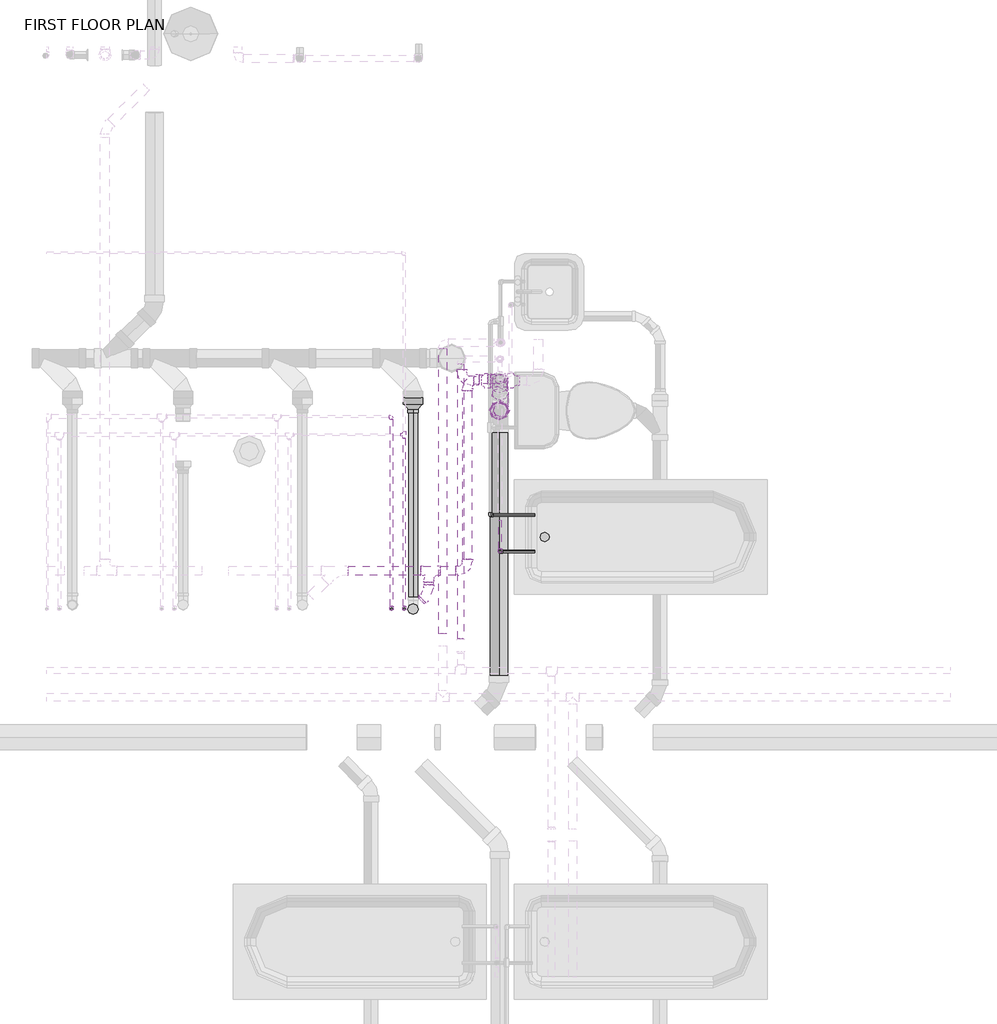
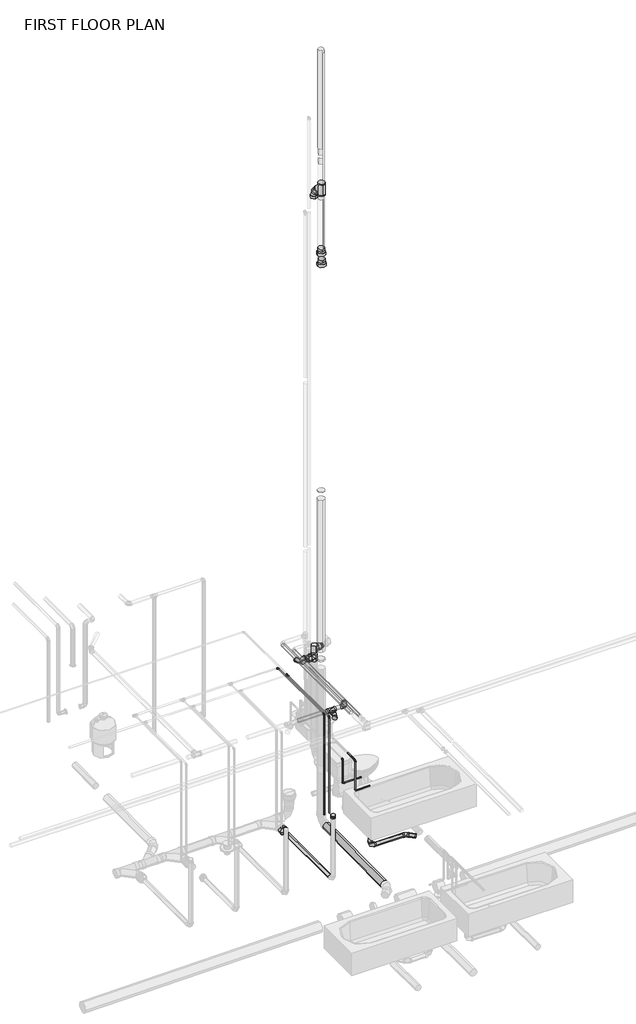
# One storey, part 25 of 29: 31 pipe segments, 26 pipe fittings.
"""IFC4 building model written with IfcOpenShell, lengths in millimetres."""

from ifc_helpers import new_model, si_unit, point, frame, frame_2d, origin, place, context, project, spatial, circle_curve, trimmed, segment, composite_curve, outline, extrude, transform, mapped, element, save
from ifc_brep_helpers import plane_surface, cylinder_surface, advanced_brep
from components import bend_pvc_sch_40_dwv_standard_e287c2f6, bend_pvc_sch_40_dwv_standard_22595671, bend_pvc_sch_40_dwv_standard_1eaeee76, bend_pvc_sch_40_dwv_standard_1ab6f397, bend_pvc_sch_40_dwv_standard_f476c566, coupling_pvc_sch_40_dwv_standard_35c33311, ges_wye_45_deg_threaded_mi_class_150_cast_iron_sanitary_f6564ef3, pipe_elbow_copper_k_aad62f2d, pipe_tee_copper_k_1a6ca384, pipe_tee_copper_k_66279296, pipe_tee_standard_eb115f45, reducer_pvc_sch_40_dwv_standard_f8e5081b, reducer_pvc_sch_40_dwv_standard_c37f7539, reducer_pvc_sch_40_dwv_standard_58c00515, tee_sanitary_pvc_sch_40_dwv_standard_7b7ecc20

model = new_model("IFC4")

# Units and contexts
model_context = context("Model", 3, world=origin())
ifc_project = project(units=[si_unit("LENGTHUNIT", "METRE", prefix="MILLI")], contexts=[model_context])

# Site, building, storey
site = spatial("IfcSite", under=ifc_project)
building = spatial("IfcBuilding", under=site)
storey = spatial("IfcBuildingStorey", under=building, Name="FIRST FLOOR PLAN", Elevation=0.0)

# Pipe fittings
placement = place(None, origin())
bend_pvc_sch_40_dwv_standard_shape = bend_pvc_sch_40_dwv_standard_e287c2f6(model_context)
element("IfcPipeFitting", 1, ObjectType="Bend - PVC - Sch 40 - DWV : Standard", at=placement, inside=storey, context=model_context, shape_type="MappedRepresentation", body=[
    mapped(bend_pvc_sch_40_dwv_standard_shape, transform((17237.6815209, 6841.398993, -384.8919141), x_axis=(0.0, 0.0, -1.0), y_axis=(1.0, 0.0, 0.0), z_axis=(0.0, -1.0, 0.0))),
])
bend_pvc_sch_40_dwv_standard_2_shape = bend_pvc_sch_40_dwv_standard_22595671(model_context)
element("IfcPipeFitting", 2, ObjectType="Bend - PVC - Sch 40 - DWV : Standard", at=placement, inside=storey, context=model_context, shape_type="MappedRepresentation", body=[
    mapped(bend_pvc_sch_40_dwv_standard_2_shape, transform((17804.0399181, 6841.398993, -390.7914808), x_axis=(-0.7066279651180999, 0.7075155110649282, 0.009935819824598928), y_axis=(-0.7075086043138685, -0.7066884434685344, 0.004797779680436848), z_axis=(0.010416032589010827, -0.003639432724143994, 0.9999391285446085))),
])
bend_pvc_sch_40_dwv_standard_3_shape = bend_pvc_sch_40_dwv_standard_1eaeee76(model_context)
element("IfcPipeFitting", 3, ObjectType="Bend - PVC - Sch 40 - DWV : Standard", at=placement, inside=storey, context=model_context, shape_type="MappedRepresentation", body=[
    mapped(bend_pvc_sch_40_dwv_standard_3_shape, transform((16725.0010296, 6617.4137881, 2311.4), x_axis=(1.0, 0.0, 0.0), y_axis=(0.0, 1.0, 0.0), z_axis=(0.0, 0.0, 1.0))),
])
element("IfcPipeFitting", 4, ObjectType="Bend - PVC - Sch 40 - DWV : Standard", at=placement, inside=storey, context=model_context, shape_type="MappedRepresentation", body=[
    mapped(bend_pvc_sch_40_dwv_standard_3_shape, transform((16725.0010296, 7887.4137881, 2311.4), x_axis=(-1.0, 0.0, 0.0), y_axis=(0.0, -1.0, 0.0), z_axis=(0.0, 0.0, 1.0))),
])
element("IfcPipeFitting", 5, ObjectType="Bend - PVC - Sch 40 - DWV : Standard", at=placement, inside=storey, context=model_context, shape_type="MappedRepresentation", body=[
    mapped(bend_pvc_sch_40_dwv_standard_3_shape, transform((16939.1076863, 7887.2912485, 2311.4), x_axis=(1.0, 0.0, 0.0), y_axis=(0.0, 0.0, 1.0), z_axis=(0.0, -1.0, 0.0))),
])
element("IfcPipeFitting", 6, ObjectType="Bend - PVC - Sch 40 - DWV : Standard", at=placement, inside=storey, context=model_context, shape_type="MappedRepresentation", body=[
    mapped(bend_pvc_sch_40_dwv_standard_3_shape, transform((16688.3084875, 7876.8887644, 2285.9990858), x_axis=(0.0, -0.9999999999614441, 8.781345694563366e-06), y_axis=(1.0000000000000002, 0.0, 0.0), z_axis=(0.0, 8.781345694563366e-06, 0.9999999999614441))),
])
bend_pvc_sch_40_dwv_standard_4_shape = bend_pvc_sch_40_dwv_standard_1ab6f397(model_context)
element("IfcPipeFitting", 7, ObjectType="Bend - PVC - Sch 40 - DWV : Standard", at=placement, inside=storey, context=model_context, shape_type="MappedRepresentation", body=[
    mapped(bend_pvc_sch_40_dwv_standard_4_shape, transform((16468.9786905, 6466.9781439, 2311.4000006), x_axis=(0.7070991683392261, 0.7071143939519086, 0.0), y_axis=(-0.7071143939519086, 0.7070991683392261, 0.0), z_axis=(0.0, 0.0, 1.0))),
])
bend_pvc_sch_40_dwv_standard_5_shape = bend_pvc_sch_40_dwv_standard_f476c566(model_context)
element("IfcPipeFitting", 8, ObjectType="Bend - PVC - Sch 40 - DWV : Standard", at=placement, inside=storey, context=model_context, shape_type="MappedRepresentation", body=[
    mapped(bend_pvc_sch_40_dwv_standard_5_shape, transform((16939.1076863, 7887.2912485, 10143.4877264), x_axis=(0.0, 0.0, 1.0), y_axis=(0.043709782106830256, -0.9990442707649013, 0.0), z_axis=(0.9990442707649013, 0.043709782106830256, 0.0))),
])
coupling_pvc_sch_40_dwv_standard_shape = coupling_pvc_sch_40_dwv_standard_35c33311(model_context)
element("IfcPipeFitting", 9, ObjectType="Coupling - PVC - Sch 40 - DWV : Standard", at=placement, inside=storey, context=model_context, shape_type="MappedRepresentation", body=[
    mapped(coupling_pvc_sch_40_dwv_standard_shape, transform((16365.3897735, 6363.3917509, 709.0879534), x_axis=(-1.1657634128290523e-06, -4.63813787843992e-05, 0.9999999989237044), y_axis=(0.9999999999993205, -2.582600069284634e-09, 1.1657632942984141e-06), z_axis=(2.528530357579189e-09, 0.9999999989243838, 4.638137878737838e-05))),
])
ges_wye_45_deg_threaded_mi_class_150_cast_iron_sanitary_shape = ges_wye_45_deg_threaded_mi_class_150_cast_iron_sanitary_f6564ef3(model_context)
element("IfcPipeFitting", 10, ObjectType="GES Wye 45 Deg - Threaded - MI - Class 150 : Cast Iron- Sanitary", at=placement, inside=storey, context=model_context, shape_type="MappedRepresentation", body=[
    mapped(ges_wye_45_deg_threaded_mi_class_150_cast_iron_sanitary_shape, transform((16943.5229844, 7681.3681734, 10388.8773643), x_axis=(0.0, 0.0, 1.0), y_axis=(0.0, -1.0, 0.0), z_axis=(1.0, 0.0, 0.0))),
])
pipe_elbow_copper_k_shape = pipe_elbow_copper_k_aad62f2d(model_context)
element("IfcPipeFitting", 11, ObjectType="Pipe Elbow : Copper- K", at=placement, inside=storey, context=model_context, shape_type="MappedRepresentation", body=[
    mapped(pipe_elbow_copper_k_shape, transform((16223.3084875, 6363.4137881, 2490.6882812), x_axis=(0.0, -1.0, 0.0), y_axis=(0.0, 0.0, -1.0), z_axis=(1.0, 0.0, 0.0))),
])
element("IfcPipeFitting", 12, ObjectType="Pipe Elbow : Copper- K", at=placement, inside=storey, context=model_context, shape_type="MappedRepresentation", body=[
    mapped(pipe_elbow_copper_k_shape, transform((16306.9084875, 6363.4137881, 2413.0), x_axis=(0.0, -1.0, 0.0), y_axis=(0.0, 0.0, -1.0), z_axis=(1.0, 0.0, 0.0))),
])
element("IfcPipeFitting", 13, ObjectType="Pipe Elbow : Copper- K", at=placement, inside=storey, context=model_context, shape_type="MappedRepresentation", body=[
    mapped(pipe_elbow_copper_k_shape, transform((16223.3084875, 7639.882496, 2490.6882812), x_axis=(0.0, 1.0, 0.0), y_axis=(-1.0, 0.0, 0.0), z_axis=(0.0, 0.0, 1.0))),
])
element("IfcPipeFitting", 14, ObjectType="Pipe Elbow : Copper- K", at=placement, inside=storey, context=model_context, shape_type="MappedRepresentation", body=[
    mapped(pipe_elbow_copper_k_shape, transform((16942.7084875, 6746.0012881, 1219.2), x_axis=(0.0, -1.0, 0.0), y_axis=(0.0, 0.0, -1.0), z_axis=(1.0, 0.0, 0.0))),
])
element("IfcPipeFitting", 15, ObjectType="Pipe Elbow : Copper- K", at=placement, inside=storey, context=model_context, shape_type="MappedRepresentation", body=[
    mapped(pipe_elbow_copper_k_shape, transform((16942.7084875, 6746.0012881, 711.2), x_axis=(0.0, 0.0, -1.0), y_axis=(1.0, 0.0, 0.0), z_axis=(0.0, -1.0, 0.0))),
])
element("IfcPipeFitting", 16, ObjectType="Pipe Elbow : Copper- K", at=placement, inside=storey, context=model_context, shape_type="MappedRepresentation", body=[
    mapped(pipe_elbow_copper_k_shape, transform((16879.2084875, 6986.022219, 1117.6), x_axis=(0.0, -1.0, 0.0), y_axis=(0.0, 0.0, -1.0), z_axis=(1.0, 0.0, 0.0))),
])
element("IfcPipeFitting", 17, ObjectType="Pipe Elbow : Copper- K", at=placement, inside=storey, context=model_context, shape_type="MappedRepresentation", body=[
    mapped(pipe_elbow_copper_k_shape, transform((16879.2084875, 6986.022219, 711.2), x_axis=(0.0, 0.0, -1.0), y_axis=(1.0, 0.0, 0.0), z_axis=(0.0, -1.0, 0.0))),
])
pipe_tee_copper_k_shape = pipe_tee_copper_k_1a6ca384(model_context)
element("IfcPipeFitting", 18, ObjectType="Pipe Tee : Copper- K", at=placement, inside=storey, context=model_context, shape_type="MappedRepresentation", body=[
    mapped(pipe_tee_copper_k_shape, transform((16306.9084875, 7519.1499538, 2413.0), x_axis=(0.0, 1.0, 0.0), y_axis=(1.0, 0.0, 0.0), z_axis=(0.0, 0.0, -1.0))),
])
pipe_tee_copper_k_2_shape = pipe_tee_copper_k_66279296(model_context)
element("IfcPipeFitting", 19, ObjectType="Pipe Tee : Standard", at=placement, inside=storey, context=model_context, shape_type="MappedRepresentation", body=[
    mapped(pipe_tee_copper_k_2_shape, transform((16935.7559337, 7876.8887644, 2285.9990858), x_axis=(0.0, 0.0, 1.0), y_axis=(1.0, 0.0, 0.0), z_axis=(0.0, 1.0, 0.0))),
])
pipe_tee_standard_shape = pipe_tee_standard_eb115f45(model_context)
element("IfcPipeFitting", 20, ObjectType="Pipe Tee : Standard", at=placement, inside=storey, context=model_context, shape_type="MappedRepresentation", body=[
    mapped(pipe_tee_standard_shape, transform((16935.7559337, 7876.8887644, 2438.7627068), x_axis=(0.0, 0.0, 1.0), y_axis=(-1.0, 0.0, 0.0), z_axis=(0.0, -1.0, 0.0))),
])
reducer_pvc_sch_40_dwv_standard_shape = reducer_pvc_sch_40_dwv_standard_f8e5081b(model_context)
element("IfcPipeFitting", 21, ObjectType="Reducer - PVC - Sch 40 - DWV : Standard", at=placement, inside=storey, context=model_context, shape_type="MappedRepresentation", body=[
    mapped(reducer_pvc_sch_40_dwv_standard_shape, transform((16880.1934337, 7876.8887644, 2285.9990858), x_axis=(-1.0, 0.0, 0.0), y_axis=(0.0, -1.0, 0.0), z_axis=(0.0, 0.0, 1.0))),
])
element("IfcPipeFitting", 22, ObjectType="Reducer - PVC - Sch 40 - DWV : Standard", at=placement, inside=storey, context=model_context, shape_type="MappedRepresentation", body=[
    mapped(reducer_pvc_sch_40_dwv_standard_shape, transform((16991.3183768, 7876.8887644, 2438.6831648), x_axis=(0.9999989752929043, 0.0, -0.001431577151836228), y_axis=(0.0, 1.0000000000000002, 0.0), z_axis=(0.001431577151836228, 0.0, 0.9999989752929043))),
])
reducer_pvc_sch_40_dwv_standard_2_shape = reducer_pvc_sch_40_dwv_standard_c37f7539(model_context)
element("IfcPipeFitting", 23, ObjectType="Reducer - PVC - Sch 40 - DWV : Standard", at=placement, inside=storey, context=model_context, shape_type="MappedRepresentation", body=[
    mapped(reducer_pvc_sch_40_dwv_standard_2_shape, transform((16365.3710321, 7764.8290706, -362.8628184), x_axis=(3.0411561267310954e-06, -0.999999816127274, 0.0006064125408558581), y_axis=(0.999945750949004, 9.357444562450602e-06, 0.01041609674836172), z_axis=(-0.010416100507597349, 0.0006063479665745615, 0.9999455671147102))),
])
reducer_pvc_sch_40_dwv_standard_3_shape = reducer_pvc_sch_40_dwv_standard_58c00515(model_context)
element("IfcPipeFitting", 24, ObjectType="Reducer - PVC - Sch 40 - DWV : Standard", at=placement, inside=storey, context=model_context, shape_type="MappedRepresentation", body=[
    mapped(reducer_pvc_sch_40_dwv_standard_3_shape, transform((16943.5229916, 7681.3681734, 9032.425974), x_axis=(-6.77753094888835e-08, 0.0, 0.9999999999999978), y_axis=(0.9999999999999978, 0.0, 6.77753094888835e-08), z_axis=(0.0, 1.0, 0.0))),
])
element("IfcPipeFitting", 25, ObjectType="Reducer - PVC - Sch 40 - DWV : Standard", at=placement, inside=storey, context=model_context, shape_type="MappedRepresentation", body=[
    mapped(reducer_pvc_sch_40_dwv_standard_3_shape, transform((16935.7561975, 7679.2137881, 9222.9259733), x_axis=(-6.991457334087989e-08, 0.0, 0.9999999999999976), y_axis=(0.9999999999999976, 0.0, 6.991457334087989e-08), z_axis=(0.0, 1.0, 0.0))),
])
tee_sanitary_pvc_sch_40_dwv_standard_shape = tee_sanitary_pvc_sch_40_dwv_standard_7b7ecc20(model_context)
element("IfcPipeFitting", 26, ObjectType="Tee Sanitary - PVC - Sch 40 - DWV : Standard", at=placement, inside=storey, context=model_context, shape_type="MappedRepresentation", body=[
    mapped(tee_sanitary_pvc_sch_40_dwv_standard_shape, transform((16468.9786905, 6617.4137881, 2311.4), x_axis=(-1.0, 0.0, 0.0), y_axis=(0.0, 1.0, 0.0), z_axis=(0.0, 0.0, -1.0))),
])

# Pipe segments
element("IfcPipeSegment", 27, ObjectType="Cast Iron - VENT", at=placement, inside=storey, context=model_context, shape_type="SweptSolid", body=[
    extrude(outline(composite_curve([segment(trimmed(circle_curve(frame_2d((0.0, 30.1625)), 30.1625), [point((30.1625, 30.1625))], [point((0.0, 0.0))], False, "CARTESIAN"), True, "CONTINUOUS"), segment(trimmed(circle_curve(frame_2d((0.0, 30.1625)), 30.1625), [point((0.0, 0.0))], [point((-30.1625, 30.1625))], False, "CARTESIAN"), True, "CONTINUOUS"), segment(trimmed(circle_curve(frame_2d((0.0, 30.1625)), 30.1625), [point((-30.1625, 30.1625))], [point((0.0, 60.325))], False, "CARTESIAN"), True, "CONTINUOUS"), segment(trimmed(circle_curve(frame_2d((0.0, 30.1625)), 30.1625), [point((0.0, 60.325))], [point((30.1625, 30.1625))], False, "CARTESIAN"), True, "CONTINUOUS")], self_intersect=False)), frame((16420.4027304, 6418.4011378, 2341.5625006), z_axis=(0.7070991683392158, 0.7071143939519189, 0.0), x_axis=(0.7071143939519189, -0.7070991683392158, 0.0)), (0.0, 0.0, 1.0), 11.5475212),
])
element("IfcPipeSegment", 28, ObjectType="Cast Iron - VENT", at=placement, inside=storey, context=model_context, shape_type="SweptSolid", body=[
    extrude(outline(composite_curve([segment(trimmed(circle_curve(frame_2d((2311.4, 16725.0010296)), 30.1625), [point((2311.4, 16755.1635296))], [point((2341.5625, 16725.0010296))], False, "CARTESIAN"), True, "CONTINUOUS"), segment(trimmed(circle_curve(frame_2d((2311.4, 16725.0010296)), 30.1625), [point((2341.5625, 16725.0010296))], [point((2311.4, 16694.8385296))], False, "CARTESIAN"), True, "CONTINUOUS"), segment(trimmed(circle_curve(frame_2d((2311.4, 16725.0010296)), 30.1625), [point((2311.4, 16694.8385296))], [point((2281.2375, 16725.0010296))], False, "CARTESIAN"), True, "CONTINUOUS"), segment(trimmed(circle_curve(frame_2d((2311.4, 16725.0010296)), 30.1625), [point((2281.2375, 16725.0010296))], [point((2311.4, 16755.1635296))], False, "CARTESIAN"), True, "CONTINUOUS")], self_intersect=False)), frame((0.0, 6695.2139881, 0.0), z_axis=(0.0, 1.0, 0.0), x_axis=(0.0, 0.0, 1.0)), (0.0, 0.0, 1.0), 1114.3996),
])
element("IfcPipeSegment", 29, ObjectType="Cast Iron - VENT", at=placement, inside=storey, context=model_context, shape_type="SweptSolid", body=[
    extrude(outline(composite_curve([segment(trimmed(circle_curve(frame_2d((7887.2912485, 2311.4)), 30.1625), [point((7857.1287485, 2311.4))], [point((7887.2912485, 2341.5625))], False, "CARTESIAN"), True, "CONTINUOUS"), segment(trimmed(circle_curve(frame_2d((7887.2912485, 2311.4)), 30.1625), [point((7887.2912485, 2341.5625))], [point((7917.4537485, 2311.4))], False, "CARTESIAN"), True, "CONTINUOUS"), segment(trimmed(circle_curve(frame_2d((7887.2912485, 2311.4)), 30.1625), [point((7917.4537485, 2311.4))], [point((7887.2912485, 2281.2375))], False, "CARTESIAN"), True, "CONTINUOUS"), segment(trimmed(circle_curve(frame_2d((7887.2912485, 2311.4)), 30.1625), [point((7887.2912485, 2281.2375))], [point((7857.1287485, 2311.4))], False, "CARTESIAN"), True, "CONTINUOUS")], self_intersect=False)), frame((16802.8012296, 0.0, 0.0), z_axis=(1.0, 0.0, 0.0), x_axis=(0.0, 1.0, 0.0)), (0.0, 0.0, 1.0), 58.5062567),
])
element("IfcPipeSegment", 30, ObjectType="Cast Iron - VENT", at=placement, inside=storey, context=model_context, shape_type="SweptSolid", body=[
    extrude(outline(composite_curve([segment(trimmed(circle_curve(frame_2d((6617.4137881, 2311.4)), 30.1625), [point((6587.2512881, 2311.4))], [point((6617.4137881, 2341.5625))], False, "CARTESIAN"), True, "CONTINUOUS"), segment(trimmed(circle_curve(frame_2d((6617.4137881, 2311.4)), 30.1625), [point((6617.4137881, 2341.5625))], [point((6647.5762881, 2311.4))], False, "CARTESIAN"), True, "CONTINUOUS"), segment(trimmed(circle_curve(frame_2d((6617.4137881, 2311.4)), 30.1625), [point((6647.5762881, 2311.4))], [point((6617.4137881, 2281.2375))], False, "CARTESIAN"), True, "CONTINUOUS"), segment(trimmed(circle_curve(frame_2d((6617.4137881, 2311.4)), 30.1625), [point((6617.4137881, 2281.2375))], [point((6587.2512881, 2311.4))], False, "CARTESIAN"), True, "CONTINUOUS")], self_intersect=False)), frame((16546.7788905, 0.0, 0.0), z_axis=(1.0, 0.0, 0.0), x_axis=(0.0, 1.0, 0.0)), (0.0, 0.0, 1.0), 100.421939),
])
element("IfcPipeSegment", 31, ObjectType="Cast Iron - VENT", at=placement, inside=storey, context=model_context, shape_type="SweptSolid", body=[
    extrude(outline(composite_curve([segment(trimmed(circle_curve(frame_2d((0.0, -30.1625)), 30.1625), [point((0.0, 0.0))], [point((30.1625, -30.1625))], False, "CARTESIAN"), True, "CONTINUOUS"), segment(trimmed(circle_curve(frame_2d((0.0, -30.1625)), 30.1625), [point((30.1625, -30.1625))], [point((0.0, -60.325))], False, "CARTESIAN"), True, "CONTINUOUS"), segment(trimmed(circle_curve(frame_2d((0.0, -30.1625)), 30.1625), [point((0.0, -60.325))], [point((-30.1625, -30.1625))], False, "CARTESIAN"), True, "CONTINUOUS"), segment(trimmed(circle_curve(frame_2d((0.0, -30.1625)), 30.1625), [point((-30.1625, -30.1625))], [point((0.0, 0.0))], False, "CARTESIAN"), True, "CONTINUOUS")], self_intersect=False)), frame((16438.8161905, 6524.1281439, 2311.4), z_axis=(-7.826441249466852e-12, 1.0, 0.0), x_axis=(0.0, 0.0, -1.0)), (0.0, 0.0, 1.0), 15.4854442),
])
element("IfcPipeSegment", 32, ObjectType="Cast Iron - VENT", at=placement, inside=storey, context=model_context, shape_type="SweptSolid", body=[
    extrude(outline(composite_curve([segment(trimmed(circle_curve(frame_2d((6617.4137881, 2311.3999994)), 30.1625), [point((6587.2512881, 2311.3999994))], [point((6617.4137881, 2341.5624994))], False, "CARTESIAN"), True, "CONTINUOUS"), segment(trimmed(circle_curve(frame_2d((6617.4137881, 2311.3999994)), 30.1625), [point((6617.4137881, 2341.5624994))], [point((6647.5762881, 2311.3999994))], False, "CARTESIAN"), True, "CONTINUOUS"), segment(trimmed(circle_curve(frame_2d((6617.4137881, 2311.3999994)), 30.1625), [point((6647.5762881, 2311.3999994))], [point((6617.4137881, 2281.2374994))], False, "CARTESIAN"), True, "CONTINUOUS"), segment(trimmed(circle_curve(frame_2d((6617.4137881, 2311.3999994)), 30.1625), [point((6617.4137881, 2281.2374994))], [point((6587.2512881, 2311.3999994))], False, "CARTESIAN"), True, "CONTINUOUS")], self_intersect=False)), frame((15935.1102774, 0.0, 0.0), z_axis=(1.0, 0.0, 0.0), x_axis=(0.0, 1.0, 0.0)), (0.0, 0.0, 1.0), 479.8934131),
])
element("IfcPipeSegment", 33, ObjectType="Cast Iron - VENT", at=placement, inside=storey, context=model_context, shape_type="SweptSolid", body=[
    extrude(outline(composite_curve([segment(trimmed(circle_curve(frame_2d((16939.1076863, 7887.2912485)), 30.1625), [point((16908.9451863, 7887.2912485))], [point((16939.1076863, 7917.4537485))], False, "CARTESIAN"), True, "CONTINUOUS"), segment(trimmed(circle_curve(frame_2d((16939.1076863, 7887.2912485)), 30.1625), [point((16939.1076863, 7917.4537485))], [point((16969.2701863, 7887.2912485))], False, "CARTESIAN"), True, "CONTINUOUS"), segment(trimmed(circle_curve(frame_2d((16939.1076863, 7887.2912485)), 30.1625), [point((16969.2701863, 7887.2912485))], [point((16939.1076863, 7857.1287485))], False, "CARTESIAN"), True, "CONTINUOUS"), segment(trimmed(circle_curve(frame_2d((16939.1076863, 7887.2912485)), 30.1625), [point((16939.1076863, 7857.1287485))], [point((16908.9451863, 7887.2912485))], False, "CARTESIAN"), True, "CONTINUOUS")], self_intersect=False)), frame((0.0, 0.0, 2389.2002), z_axis=(0.0, 0.0, 1.0), x_axis=(1.0, 0.0, 0.0)), (0.0, 0.0, 1.0), 27.7611944),
])
element("IfcPipeSegment", 34, ObjectType="Cast Iron - VENT", at=placement, inside=storey, context=model_context, shape_type="SweptSolid", body=[
    extrude(outline(composite_curve([segment(trimmed(circle_curve(frame_2d((0.0, -50.403125)), 50.403125), [point((50.3748623, -48.7154452))], [point((1.6876799, -100.7779873))], False, "CARTESIAN"), True, "CONTINUOUS"), segment(trimmed(circle_curve(frame_2d((0.0, -50.403125)), 50.403125), [point((1.6876799, -100.7779873))], [point((-50.3748623, -52.0908049))], False, "CARTESIAN"), True, "CONTINUOUS"), segment(trimmed(circle_curve(frame_2d((0.0, -50.403125)), 50.403125), [point((-50.3748623, -52.0908049))], [point((-1.6876799, -0.0282628))], False, "CARTESIAN"), True, "CONTINUOUS"), segment(trimmed(circle_curve(frame_2d((0.0, -50.403125)), 50.403125), [point((-1.6876799, -0.0282628))], [point((50.3748623, -48.7154452))], False, "CARTESIAN"), True, "CONTINUOUS")], self_intersect=False)), frame((16941.4283211, 7872.8611362, 10239.0982071), z_axis=(0.02811186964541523, -0.6425335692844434, 0.7657416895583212), x_axis=(0.9996047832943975, 0.01806996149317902, -0.021534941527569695)), (0.0, 0.0, 1.0), 74.5117034),
])
element("IfcPipeSegment", 35, ObjectType="Copper", at=placement, inside=storey, context=model_context, shape_type="SweptSolid", body=[
    extrude(outline(composite_curve([segment(trimmed(circle_curve(frame_2d((2413.0, 16682.0146104)), 20.6375), [point((2413.0, 16702.6521104))], [point((2433.6375, 16682.0146104))], False, "CARTESIAN"), True, "CONTINUOUS"), segment(trimmed(circle_curve(frame_2d((2413.0, 16682.0146104)), 20.6375), [point((2433.6375, 16682.0146104))], [point((2413.0, 16661.3771104))], False, "CARTESIAN"), True, "CONTINUOUS"), segment(trimmed(circle_curve(frame_2d((2413.0, 16682.0146104)), 20.6375), [point((2413.0, 16661.3771104))], [point((2392.3625, 16682.0146104))], False, "CARTESIAN"), True, "CONTINUOUS"), segment(trimmed(circle_curve(frame_2d((2413.0, 16682.0146104)), 20.6375), [point((2392.3625, 16682.0146104))], [point((2413.0, 16702.6521104))], False, "CARTESIAN"), True, "CONTINUOUS")], self_intersect=False)), frame((0.0, 6166.9606631, 0.0), z_axis=(0.0, 1.0, 0.0), x_axis=(0.0, 0.0, 1.0)), (0.0, 0.0, 1.0), 1824.0375),
])
element("IfcPipeSegment", 36, ObjectType="Copper", at=placement, inside=storey, context=model_context, shape_type="SweptSolid", body=[
    extrude(outline(composite_curve([segment(trimmed(circle_curve(frame_2d((2490.6882812, 16562.8624243)), 26.9875), [point((2490.6882812, 16589.8499243))], [point((2517.6757812, 16562.8624243))], False, "CARTESIAN"), True, "CONTINUOUS"), segment(trimmed(circle_curve(frame_2d((2490.6882812, 16562.8624243)), 26.9875), [point((2517.6757812, 16562.8624243))], [point((2490.6882812, 16535.8749243))], False, "CARTESIAN"), True, "CONTINUOUS"), segment(trimmed(circle_curve(frame_2d((2490.6882812, 16562.8624243)), 26.9875), [point((2490.6882812, 16535.8749243))], [point((2463.7007812, 16562.8624243))], False, "CARTESIAN"), True, "CONTINUOUS"), segment(trimmed(circle_curve(frame_2d((2490.6882812, 16562.8624243)), 26.9875), [point((2463.7007812, 16562.8624243))], [point((2490.6882812, 16589.8499243))], False, "CARTESIAN"), True, "CONTINUOUS")], self_intersect=False)), frame((0.0, 6199.0757881, 0.0), z_axis=(0.0, 1.0, 0.0), x_axis=(0.0, 0.0, 1.0)), (0.0, 0.0, 1.0), 1893.8875),
])
element("IfcPipeSegment", 37, ObjectType="Copper", at=placement, inside=storey, context=model_context, shape_type="SweptSolid", body=[
    extrude(outline(composite_curve([segment(trimmed(circle_curve(frame_2d((2413.0, 16306.9084875)), 7.9375), [point((2413.0, 16298.9709875))], [point((2405.0625, 16306.9084875))], False, "CARTESIAN"), True, "CONTINUOUS"), segment(trimmed(circle_curve(frame_2d((2413.0, 16306.9084875)), 7.9375), [point((2405.0625, 16306.9084875))], [point((2413.0, 16314.8459875))], False, "CARTESIAN"), True, "CONTINUOUS"), segment(trimmed(circle_curve(frame_2d((2413.0, 16306.9084875)), 7.9375), [point((2413.0, 16314.8459875))], [point((2420.9375, 16306.9084875))], False, "CARTESIAN"), True, "CONTINUOUS"), segment(trimmed(circle_curve(frame_2d((2413.0, 16306.9084875)), 7.9375), [point((2420.9375, 16306.9084875))], [point((2413.0, 16298.9709875))], False, "CARTESIAN"), True, "CONTINUOUS")], self_intersect=False)), frame((0.0, 6380.8762881, 0.0), z_axis=(0.0, 1.0, 0.0), x_axis=(0.0, 0.0, 1.0)), (0.0, 0.0, 1.0), 1114.4611658),
])
element("IfcPipeSegment", 38, ObjectType="Copper", at=placement, inside=storey, context=model_context, shape_type="SweptSolid", body=[
    extrude(outline(composite_curve([segment(trimmed(circle_curve(frame_2d((2490.6882812, 16223.3084875)), 7.9375), [point((2490.6882812, 16215.3709875))], [point((2482.7507812, 16223.3084875))], False, "CARTESIAN"), True, "CONTINUOUS"), segment(trimmed(circle_curve(frame_2d((2490.6882812, 16223.3084875)), 7.9375), [point((2482.7507812, 16223.3084875))], [point((2490.6882812, 16231.2459875))], False, "CARTESIAN"), True, "CONTINUOUS"), segment(trimmed(circle_curve(frame_2d((2490.6882812, 16223.3084875)), 7.9375), [point((2490.6882812, 16231.2459875))], [point((2498.6257812, 16223.3084875))], False, "CARTESIAN"), True, "CONTINUOUS"), segment(trimmed(circle_curve(frame_2d((2490.6882812, 16223.3084875)), 7.9375), [point((2498.6257812, 16223.3084875))], [point((2490.6882812, 16215.3709875))], False, "CARTESIAN"), True, "CONTINUOUS")], self_intersect=False)), frame((0.0, 6380.8762881, 0.0), z_axis=(0.0, 1.0, 0.0), x_axis=(0.0, 0.0, 1.0)), (0.0, 0.0, 1.0), 1241.543708),
])
element("IfcPipeSegment", 39, ObjectType="Copper", at=placement, inside=storey, context=model_context, shape_type="SweptSolid", body=[
    extrude(outline(composite_curve([segment(trimmed(circle_curve(frame_2d((16223.3084875, 6363.4137881)), 7.9375), [point((16231.2459875, 6363.4137881))], [point((16223.3084875, 6355.4762881))], False, "CARTESIAN"), True, "CONTINUOUS"), segment(trimmed(circle_curve(frame_2d((16223.3084875, 6363.4137881)), 7.9375), [point((16223.3084875, 6355.4762881))], [point((16215.3709875, 6363.4137881))], False, "CARTESIAN"), True, "CONTINUOUS"), segment(trimmed(circle_curve(frame_2d((16223.3084875, 6363.4137881)), 7.9375), [point((16215.3709875, 6363.4137881))], [point((16223.3084875, 6371.3512881))], False, "CARTESIAN"), True, "CONTINUOUS"), segment(trimmed(circle_curve(frame_2d((16223.3084875, 6363.4137881)), 7.9375), [point((16223.3084875, 6371.3512881))], [point((16231.2459875, 6363.4137881))], False, "CARTESIAN"), True, "CONTINUOUS")], self_intersect=False)), frame((0.0, 0.0, 788.8882812), z_axis=(0.0, 0.0, 1.0), x_axis=(1.0, 0.0, 0.0)), (0.0, 0.0, 1.0), 1684.3375),
])
element("IfcPipeSegment", 40, ObjectType="Copper", at=placement, inside=storey, context=model_context, shape_type="SweptSolid", body=[
    extrude(outline(composite_curve([segment(trimmed(circle_curve(frame_2d((16306.9084875, 6363.4137881)), 7.9375), [point((16314.8459875, 6363.4137881))], [point((16306.9084875, 6355.4762881))], False, "CARTESIAN"), True, "CONTINUOUS"), segment(trimmed(circle_curve(frame_2d((16306.9084875, 6363.4137881)), 7.9375), [point((16306.9084875, 6355.4762881))], [point((16298.9709875, 6363.4137881))], False, "CARTESIAN"), True, "CONTINUOUS"), segment(trimmed(circle_curve(frame_2d((16306.9084875, 6363.4137881)), 7.9375), [point((16298.9709875, 6363.4137881))], [point((16306.9084875, 6371.3512881))], False, "CARTESIAN"), True, "CONTINUOUS"), segment(trimmed(circle_curve(frame_2d((16306.9084875, 6363.4137881)), 7.9375), [point((16306.9084875, 6371.3512881))], [point((16314.8459875, 6363.4137881))], False, "CARTESIAN"), True, "CONTINUOUS")], self_intersect=False)), frame((0.0, 0.0, 788.8882812), z_axis=(0.0, 0.0, 1.0), x_axis=(1.0, 0.0, 0.0)), (0.0, 0.0, 1.0), 1606.6492188),
])
element("IfcPipeSegment", 41, ObjectType="Copper", at=placement, inside=storey, context=model_context, shape_type="SweptSolid", body=[
    extrude(outline(composite_curve([segment(trimmed(circle_curve(frame_2d((1219.2, 16942.7084875)), 7.9375), [point((1219.2, 16934.7709875))], [point((1211.2625, 16942.7084875))], False, "CARTESIAN"), True, "CONTINUOUS"), segment(trimmed(circle_curve(frame_2d((1219.2, 16942.7084875)), 7.9375), [point((1211.2625, 16942.7084875))], [point((1219.2, 16950.6459875))], False, "CARTESIAN"), True, "CONTINUOUS"), segment(trimmed(circle_curve(frame_2d((1219.2, 16942.7084875)), 7.9375), [point((1219.2, 16950.6459875))], [point((1227.1375, 16942.7084875))], False, "CARTESIAN"), True, "CONTINUOUS"), segment(trimmed(circle_curve(frame_2d((1219.2, 16942.7084875)), 7.9375), [point((1227.1375, 16942.7084875))], [point((1219.2, 16934.7709875))], False, "CARTESIAN"), True, "CONTINUOUS")], self_intersect=False)), frame((0.0, 6763.4637881, 0.0), z_axis=(0.0, 1.0, 0.0), x_axis=(0.0, 0.0, 1.0)), (0.0, 0.0, 1.0), 190.0146809),
])
element("IfcPipeSegment", 42, ObjectType="Copper", at=placement, inside=storey, context=model_context, shape_type="SweptSolid", body=[
    extrude(outline(composite_curve([segment(trimmed(circle_curve(frame_2d((6746.0012881, 711.2)), 7.9375), [point((6738.0637881, 711.2))], [point((6746.0012881, 719.1375))], False, "CARTESIAN"), True, "CONTINUOUS"), segment(trimmed(circle_curve(frame_2d((6746.0012881, 711.2)), 7.9375), [point((6746.0012881, 719.1375))], [point((6753.9387881, 711.2))], False, "CARTESIAN"), True, "CONTINUOUS"), segment(trimmed(circle_curve(frame_2d((6746.0012881, 711.2)), 7.9375), [point((6753.9387881, 711.2))], [point((6746.0012881, 703.2625))], False, "CARTESIAN"), True, "CONTINUOUS"), segment(trimmed(circle_curve(frame_2d((6746.0012881, 711.2)), 7.9375), [point((6746.0012881, 703.2625))], [point((6738.0637881, 711.2))], False, "CARTESIAN"), True, "CONTINUOUS")], self_intersect=False)), frame((16960.1709875, 0.0, 0.0), z_axis=(1.0, 0.0, 0.0), x_axis=(0.0, 1.0, 0.0)), (0.0, 0.0, 1.0), 211.1375),
])
element("IfcPipeSegment", 43, ObjectType="Copper", at=placement, inside=storey, context=model_context, shape_type="SweptSolid", body=[
    extrude(outline(composite_curve([segment(trimmed(circle_curve(frame_2d((16942.7084875, 6746.0012881)), 7.9375), [point((16950.6459875, 6746.0012881))], [point((16942.7084875, 6738.0637881))], False, "CARTESIAN"), True, "CONTINUOUS"), segment(trimmed(circle_curve(frame_2d((16942.7084875, 6746.0012881)), 7.9375), [point((16942.7084875, 6738.0637881))], [point((16934.7709875, 6746.0012881))], False, "CARTESIAN"), True, "CONTINUOUS"), segment(trimmed(circle_curve(frame_2d((16942.7084875, 6746.0012881)), 7.9375), [point((16934.7709875, 6746.0012881))], [point((16942.7084875, 6753.9387881))], False, "CARTESIAN"), True, "CONTINUOUS"), segment(trimmed(circle_curve(frame_2d((16942.7084875, 6746.0012881)), 7.9375), [point((16942.7084875, 6753.9387881))], [point((16950.6459875, 6746.0012881))], False, "CARTESIAN"), True, "CONTINUOUS")], self_intersect=False)), frame((0.0, 0.0, 728.6625), z_axis=(0.0, 0.0, 1.0), x_axis=(1.0, 0.0, 0.0)), (0.0, 0.0, 1.0), 473.075),
])
element("IfcPipeSegment", 44, ObjectType="Copper", at=placement, inside=storey, context=model_context, shape_type="SweptSolid", body=[
    extrude(outline(composite_curve([segment(trimmed(circle_curve(frame_2d((6986.022219, 711.2)), 7.9375), [point((6978.084719, 711.2))], [point((6986.022219, 719.1375))], False, "CARTESIAN"), True, "CONTINUOUS"), segment(trimmed(circle_curve(frame_2d((6986.022219, 711.2)), 7.9375), [point((6986.022219, 719.1375))], [point((6993.959719, 711.2))], False, "CARTESIAN"), True, "CONTINUOUS"), segment(trimmed(circle_curve(frame_2d((6986.022219, 711.2)), 7.9375), [point((6993.959719, 711.2))], [point((6986.022219, 703.2625))], False, "CARTESIAN"), True, "CONTINUOUS"), segment(trimmed(circle_curve(frame_2d((6986.022219, 711.2)), 7.9375), [point((6986.022219, 703.2625))], [point((6978.084719, 711.2))], False, "CARTESIAN"), True, "CONTINUOUS")], self_intersect=False)), frame((16896.6709875, 0.0, 0.0), z_axis=(1.0, 0.0, 0.0), x_axis=(0.0, 1.0, 0.0)), (0.0, 0.0, 1.0), 274.6375),
])
element("IfcPipeSegment", 45, ObjectType="Copper", at=placement, inside=storey, context=model_context, shape_type="SweptSolid", body=[
    extrude(outline(composite_curve([segment(trimmed(circle_curve(frame_2d((16879.2084875, 6986.022219)), 7.9375), [point((16887.1459875, 6986.022219))], [point((16879.2084875, 6978.084719))], False, "CARTESIAN"), True, "CONTINUOUS"), segment(trimmed(circle_curve(frame_2d((16879.2084875, 6986.022219)), 7.9375), [point((16879.2084875, 6978.084719))], [point((16871.2709875, 6986.022219))], False, "CARTESIAN"), True, "CONTINUOUS"), segment(trimmed(circle_curve(frame_2d((16879.2084875, 6986.022219)), 7.9375), [point((16871.2709875, 6986.022219))], [point((16879.2084875, 6993.959719))], False, "CARTESIAN"), True, "CONTINUOUS"), segment(trimmed(circle_curve(frame_2d((16879.2084875, 6986.022219)), 7.9375), [point((16879.2084875, 6993.959719))], [point((16887.1459875, 6986.022219))], False, "CARTESIAN"), True, "CONTINUOUS")], self_intersect=False)), frame((0.0, 0.0, 728.6625), z_axis=(0.0, 0.0, 1.0), x_axis=(1.0, 0.0, 0.0)), (0.0, 0.0, 1.0), 371.475),
])
element("IfcPipeSegment", 46, ObjectType="PVC - SAN/STORM", at=placement, inside=storey, context=model_context, shape_type="SweptSolid", body=[
    extrude(outline(composite_curve([segment(trimmed(circle_curve(frame_2d((0.0, -30.1625)), 30.1625), [point((-30.1625, -30.1625))], [point((1e-07, 0.0))], False, "CARTESIAN"), True, "CONTINUOUS"), segment(trimmed(circle_curve(frame_2d((0.0, -30.1625)), 30.1625), [point((1e-07, 0.0))], [point((30.1625, -30.1625001))], False, "CARTESIAN"), True, "CONTINUOUS"), segment(trimmed(circle_curve(frame_2d((0.0, -30.1625)), 30.1625), [point((30.1625, -30.1625001))], [point((0.0, -60.3250001))], False, "CARTESIAN"), True, "CONTINUOUS"), segment(trimmed(circle_curve(frame_2d((0.0, -30.1625)), 30.1625), [point((0.0, -60.3250001))], [point((-30.1625, -30.1625))], False, "CARTESIAN"), True, "CONTINUOUS")], self_intersect=False)), frame((17237.6815209, 6811.236493, -307.0904602), z_axis=(-3.63018948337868e-05, 4.1573663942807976e-05, 0.9999999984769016), x_axis=(-0.9999999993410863, -1.5092034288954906e-09, -3.6301894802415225e-05)), (0.0, 0.0, 1.0), 359.8856423),
])
element("IfcPipeSegment", 47, ObjectType="PVC - SAN/STORM", at=placement, inside=storey, context=model_context, shape_type="SweptSolid", body=[
    extrude(outline(composite_curve([segment(trimmed(circle_curve(frame_2d((0.0, -30.1625)), 30.1625), [point((0.0, -60.325))], [point((-30.1625, -30.1625))], False, "CARTESIAN"), True, "CONTINUOUS"), segment(trimmed(circle_curve(frame_2d((0.0, -30.1625)), 30.1625), [point((-30.1625, -30.1625))], [point((0.0, 0.0))], False, "CARTESIAN"), True, "CONTINUOUS"), segment(trimmed(circle_curve(frame_2d((0.0, -30.1625)), 30.1625), [point((0.0, 0.0))], [point((30.1625001, -30.1625))], False, "CARTESIAN"), True, "CONTINUOUS"), segment(trimmed(circle_curve(frame_2d((0.0, -30.1625)), 30.1625), [point((30.1625001, -30.1625))], [point((0.0, -60.325))], False, "CARTESIAN"), True, "CONTINUOUS")], self_intersect=False)), frame((17751.6425608, 6871.561493, -390.245675), z_axis=(-0.9999457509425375, 0.0, 0.01041610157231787), x_axis=(0.01041610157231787, 0.0, 0.9999457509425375)), (0.0, 0.0, 1.0), 436.1887233),
])
element("IfcPipeSegment", 48, ObjectType="PVC - SAN/STORM", at=placement, inside=storey, context=model_context, shape_type="SweptSolid", body=[
    extrude(outline(composite_curve([segment(trimmed(circle_curve(frame_2d((0.0, -30.1625001)), 30.1625), [point((-30.161015, -30.4617986))], [point((-0.2992985, -0.001485))], False, "CARTESIAN"), True, "CONTINUOUS"), segment(trimmed(circle_curve(frame_2d((0.0, -30.1625001)), 30.1625), [point((-0.2992985, -0.001485))], [point((30.161015, -29.8632016))], False, "CARTESIAN"), True, "CONTINUOUS"), segment(trimmed(circle_curve(frame_2d((0.0, -30.1625001)), 30.1625), [point((30.161015, -29.8632016))], [point((0.2992985, -60.3235151))], False, "CARTESIAN"), True, "CONTINUOUS"), segment(trimmed(circle_curve(frame_2d((0.0, -30.1625001)), 30.1625), [point((0.2992985, -60.3235151))], [point((-30.161015, -30.4617986))], False, "CARTESIAN"), True, "CONTINUOUS")], self_intersect=False)), frame((17906.4017801, 6739.3356826, -422.672871), z_axis=(-0.7066279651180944, 0.7075155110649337, 0.009935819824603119), x_axis=(0.7075852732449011, 0.706558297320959, 0.009922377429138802)), (0.0, 0.0, 1.0), 92.4596972),
])
element("IfcPipeSegment", 49, ObjectType="PVC - SAN/STORM", at=placement, inside=storey, context=model_context, shape_type="SweptSolid", body=[
    extrude(outline(composite_curve([segment(trimmed(circle_curve(frame_2d((0.0, -30.1625)), 30.1625), [point((0.0, -60.325))], [point((-30.1624999, -30.1625))], False, "CARTESIAN"), True, "CONTINUOUS"), segment(trimmed(circle_curve(frame_2d((0.0, -30.1625)), 30.1625), [point((-30.1624999, -30.1625))], [point((0.0, 0.0))], False, "CARTESIAN"), True, "CONTINUOUS"), segment(trimmed(circle_curve(frame_2d((0.0, -30.1625)), 30.1625), [point((0.0, 0.0))], [point((30.1625, -30.1625))], False, "CARTESIAN"), True, "CONTINUOUS"), segment(trimmed(circle_curve(frame_2d((0.0, -30.1625)), 30.1625), [point((30.1625, -30.1625))], [point((0.0, -60.325))], False, "CARTESIAN"), True, "CONTINUOUS")], self_intersect=False)), frame((16335.2088415, 7666.4040887, -362.8031322), z_axis=(0.0, -0.9999998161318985, 0.00060641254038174), x_axis=(0.0, 0.00060641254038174, 0.9999998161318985)), (0.0, 0.0, 1.0), 1225.1619873),
])
element("IfcPipeSegment", 50, ObjectType="PVC - SAN/STORM", at=placement, inside=storey, context=model_context, shape_type="SweptSolid", body=[
    extrude(outline(composite_curve([segment(trimmed(circle_curve(frame_2d((16943.5229844, 7681.3681734)), 44.45), [point((16899.0729844, 7681.3681734))], [point((16943.5229844, 7725.8181734))], False, "CARTESIAN"), True, "CONTINUOUS"), segment(trimmed(circle_curve(frame_2d((16943.5229844, 7681.3681734)), 44.45), [point((16943.5229844, 7725.8181734))], [point((16987.9729844, 7681.3681734))], False, "CARTESIAN"), True, "CONTINUOUS"), segment(trimmed(circle_curve(frame_2d((16943.5229844, 7681.3681734)), 44.45), [point((16987.9729844, 7681.3681734))], [point((16943.5229844, 7636.9181734))], False, "CARTESIAN"), True, "CONTINUOUS"), segment(trimmed(circle_curve(frame_2d((16943.5229844, 7681.3681734)), 44.45), [point((16943.5229844, 7636.9181734))], [point((16899.0729844, 7681.3681734))], False, "CARTESIAN"), True, "CONTINUOUS")], self_intersect=False)), frame((0.0, 0.0, 10432.2773643), z_axis=(0.0, 0.0, 1.0), x_axis=(1.0, 0.0, 0.0)), (0.0, 0.0, 1.0), 2211.7238096),
])
element("IfcPipeSegment", 51, ObjectType="PVC - SAN/STORM", at=placement, inside=storey, context=model_context, shape_type="SweptSolid", body=[
    extrude(outline(composite_curve([segment(trimmed(circle_curve(frame_2d((0.0, -57.15)), 57.15), [point((-57.15, -57.15))], [point((0.0, 0.0))], False, "CARTESIAN"), True, "CONTINUOUS"), segment(trimmed(circle_curve(frame_2d((0.0, -57.15)), 57.15), [point((0.0, 0.0))], [point((57.15, -57.15))], False, "CARTESIAN"), True, "CONTINUOUS"), segment(trimmed(circle_curve(frame_2d((0.0, -57.15)), 57.15), [point((57.15, -57.15))], [point((0.0, -114.3))], False, "CARTESIAN"), True, "CONTINUOUS"), segment(trimmed(circle_curve(frame_2d((0.0, -57.15)), 57.15), [point((0.0, -114.3))], [point((-57.15, -57.15))], False, "CARTESIAN"), True, "CONTINUOUS")], self_intersect=False)), frame((16935.7564169, 5922.4886305, -435.7501595), z_axis=(0.0, 0.9999461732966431, 0.010375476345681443), x_axis=(1.0, 0.0, 0.0)), (0.0, 0.0, 1.0), 1614.5377485),
])
element("IfcPipeSegment", 52, ObjectType="PVC - SAN/STORM", at=placement, inside=storey, context=model_context, shape_type="SweptSolid", body=[
    extrude(outline(composite_curve([segment(trimmed(circle_curve(frame_2d((16943.5229844, 7681.3681734)), 44.45), [point((16899.0729844, 7681.3681734))], [point((16943.5229844, 7725.8181734))], False, "CARTESIAN"), True, "CONTINUOUS"), segment(trimmed(circle_curve(frame_2d((16943.5229844, 7681.3681734)), 44.45), [point((16943.5229844, 7725.8181734))], [point((16987.9729844, 7681.3681734))], False, "CARTESIAN"), True, "CONTINUOUS"), segment(trimmed(circle_curve(frame_2d((16943.5229844, 7681.3681734)), 44.45), [point((16987.9729844, 7681.3681734))], [point((16943.5229844, 7636.9181734))], False, "CARTESIAN"), True, "CONTINUOUS"), segment(trimmed(circle_curve(frame_2d((16943.5229844, 7681.3681734)), 44.45), [point((16943.5229844, 7636.9181734))], [point((16899.0729844, 7681.3681734))], False, "CARTESIAN"), True, "CONTINUOUS")], self_intersect=False)), frame((0.0, 0.0, 9138.801174), z_axis=(0.0, 0.0, 1.0), x_axis=(1.0, 0.0, 0.0)), (0.0, 0.0, 1.0), 1086.73165),
])
element("IfcPipeSegment", 53, ObjectType="PVC - SAN/STORM", at=placement, inside=storey, context=model_context, shape_type="AdvancedBrep", body=[
    advanced_brep(
    [(16891.3059337, 7679.2137881, 11022.3584879), (16935.7559337, 7723.6637881, 11022.3584877), (16980.2059337, 7679.2137881, 11022.3584876), (16935.7559337, 7634.7637881, 11022.3584877), (16891.3059393, 7679.2137881, 12690.0259739), (16935.7559393, 7634.7637881, 12690.0259738), (16980.2059393, 7679.2137881, 12690.0259736), (16935.7559393, 7723.6637881, 12690.0259738)],
    [
        (0, 1, circle_curve(frame((16935.7559337, 7679.2137881, 11022.3584879), z_axis=(0.0, 0.0, -1.0), x_axis=(-1.0, 0.0, 0.0)), 44.45)),
        (1, 2, circle_curve(frame((16935.7559337, 7679.2137881, 11022.3584877), z_axis=(0.0, 0.0, -1.0), x_axis=(-1.0, 0.0, 0.0)), 44.45)),
        (2, 3, circle_curve(frame((16935.7559337, 7679.2137881, 11022.3584876), z_axis=(0.0, 0.0, -1.0), x_axis=(-1.0, 0.0, 0.0)), 44.45)),
        (3, 0, circle_curve(frame((16935.7559337, 7679.2137881, 11022.3584877), z_axis=(0.0, 0.0, -1.0), x_axis=(-1.0, 0.0, 0.0)), 44.45)),
        (4, 5, circle_curve(frame((16935.7559337, 7679.2137881, 12690.0259739), z_axis=(0.0, 0.0, 1.0), x_axis=(-1.0, 0.0, 0.0)), 44.4499944)),
        (5, 6, circle_curve(frame((16935.7559337, 7679.2137881, 12690.0259738), z_axis=(0.0, 0.0, 1.0), x_axis=(-1.0, 0.0, 0.0)), 44.45)),
        (6, 7, circle_curve(frame((16935.7559337, 7679.2137881, 12690.0259736), z_axis=(0.0, 0.0, 1.0), x_axis=(-1.0, 0.0, 0.0)), 44.4500056)),
        (7, 4, circle_curve(frame((16935.7559337, 7679.2137881, 12690.0259738), z_axis=(0.0, 0.0, 1.0), x_axis=(-1.0, 0.0, 0.0)), 44.45)),
        (0, 4),
        (7, 1),
        (6, 2),
        (5, 3),
    ],
    [
        plane_surface(frame((16935.7559337, 7634.7637881, 11022.3584877), z_axis=(-3.3765061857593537e-09, 0.0, -1.0), x_axis=(1.0, 0.0, -3.3765061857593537e-09))),
        plane_surface(frame((16935.7559393, 7634.7637881, 12690.0259738), z_axis=(3.3765061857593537e-09, 0.0, 1.0), x_axis=(1.0, 0.0, -3.3765061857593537e-09))),
        cylinder_surface(frame((16935.7559337, 7679.2137881, 11022.3584877), z_axis=(0.0, 0.0, -1.0), x_axis=(-1.0, 0.0, 0.0)), 44.45),
    ],
    [
        (0, [[1, 2, 3, 4]]),
        (1, [[5, 6, 7, 8]]),
        (2, [[-1, 9, -8, 10]]),
        (2, [[-2, -10, -7, 11]]),
        (2, [[-3, -11, -6, 12]]),
        (2, [[-4, -12, -5, -9]]),
    ],
),
])
element("IfcPipeSegment", 54, ObjectType="PVC - SAN/STORM", at=placement, inside=storey, context=model_context, shape_type="SweptSolid", body=[
    extrude(outline(composite_curve([segment(trimmed(circle_curve(frame_2d((0.0, 57.15)), 57.15), [point((-57.15, 57.15))], [point((0.0, 114.3))], False, "CARTESIAN"), True, "CONTINUOUS"), segment(trimmed(circle_curve(frame_2d((0.0, 57.15)), 57.15), [point((0.0, 114.3))], [point((57.15, 57.15))], False, "CARTESIAN"), True, "CONTINUOUS"), segment(trimmed(circle_curve(frame_2d((0.0, 57.15)), 57.15), [point((57.15, 57.15))], [point((0.0, 0.0))], False, "CARTESIAN"), True, "CONTINUOUS"), segment(trimmed(circle_curve(frame_2d((0.0, 57.15)), 57.15), [point((0.0, 0.0))], [point((-57.15, 57.15))], False, "CARTESIAN"), True, "CONTINUOUS")], self_intersect=False)), frame((16935.7564078, 7622.0637881, 2359.2438689), z_axis=(-6.991459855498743e-08, 0.0, 0.9999999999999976), x_axis=(0.9999999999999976, 0.0, 6.991459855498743e-08)), (0.0, 0.0, 1.0), 24.3518028),
])
element("IfcPipeSegment", 55, ObjectType="PVC - SAN/STORM", at=placement, inside=storey, context=model_context, shape_type="SweptSolid", body=[
    extrude(outline(composite_curve([segment(trimmed(circle_curve(frame_2d((7876.8887644, 2285.9990858)), 30.1625), [point((7846.7262644, 2285.9990858))], [point((7876.8887644, 2316.1615858))], False, "CARTESIAN"), True, "CONTINUOUS"), segment(trimmed(circle_curve(frame_2d((7876.8887644, 2285.9990858)), 30.1625), [point((7876.8887644, 2316.1615858))], [point((7907.0512644, 2285.9990858))], False, "CARTESIAN"), True, "CONTINUOUS"), segment(trimmed(circle_curve(frame_2d((7876.8887644, 2285.9990858)), 30.1625), [point((7907.0512644, 2285.9990858))], [point((7876.8887644, 2255.8365858))], False, "CARTESIAN"), True, "CONTINUOUS"), segment(trimmed(circle_curve(frame_2d((7876.8887644, 2285.9990858)), 30.1625), [point((7876.8887644, 2255.8365858))], [point((7846.7262644, 2285.9990858))], False, "CARTESIAN"), True, "CONTINUOUS")], self_intersect=False)), frame((16766.1086875, 0.0, 0.0), z_axis=(1.0, 0.0, 0.0), x_axis=(0.0, 1.0, 0.0)), (0.0, 0.0, 1.0), 34.7097462),
])
element("IfcPipeSegment", 56, ObjectType="PVC - SAN/STORM", at=placement, inside=storey, context=model_context, shape_type="SweptSolid", body=[
    extrude(outline(composite_curve([segment(trimmed(circle_curve(frame_2d((0.0, 57.15)), 57.15), [point((-57.15, 57.15))], [point((0.0, 114.3))], False, "CARTESIAN"), True, "CONTINUOUS"), segment(trimmed(circle_curve(frame_2d((0.0, 57.15)), 57.15), [point((0.0, 114.3))], [point((57.15, 57.15))], False, "CARTESIAN"), True, "CONTINUOUS"), segment(trimmed(circle_curve(frame_2d((0.0, 57.15)), 57.15), [point((57.15, 57.15))], [point((0.0, 0.0))], False, "CARTESIAN"), True, "CONTINUOUS"), segment(trimmed(circle_curve(frame_2d((0.0, 57.15)), 57.15), [point((0.0, 0.0))], [point((-57.15, 57.15))], False, "CARTESIAN"), True, "CONTINUOUS")], self_intersect=False)), frame((16935.7563965, 7622.0637881, 2520.1206717), z_axis=(-6.507051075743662e-08, 0.0, 0.999999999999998), x_axis=(0.999999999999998, 0.0, 6.507051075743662e-08)), (0.0, 0.0, 1.0), 2566.1961967),
])
element("IfcPipeSegment", 57, ObjectType="PVC - SAN/STORM", at=placement, inside=storey, context=model_context, shape_type="SweptSolid", body=[
    extrude(outline(composite_curve([segment(trimmed(circle_curve(frame_2d((0.0, 57.15)), 57.15), [point((-57.15, 57.15))], [point((0.0, 114.3))], False, "CARTESIAN"), True, "CONTINUOUS"), segment(trimmed(circle_curve(frame_2d((0.0, 57.15)), 57.15), [point((0.0, 114.3))], [point((57.15, 57.15))], False, "CARTESIAN"), True, "CONTINUOUS"), segment(trimmed(circle_curve(frame_2d((0.0, 57.15)), 57.15), [point((57.15, 57.15))], [point((0.0, 0.0))], False, "CARTESIAN"), True, "CONTINUOUS"), segment(trimmed(circle_curve(frame_2d((0.0, 57.15)), 57.15), [point((0.0, 0.0))], [point((-57.15, 57.15))], False, "CARTESIAN"), True, "CONTINUOUS")], self_intersect=False)), frame((16935.7562199, 7622.0637881, 5222.8418684), z_axis=(-2.289267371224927e-06, 0.0, 0.9999999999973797), x_axis=(0.9999999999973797, 0.0, 2.289267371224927e-06)), (0.0, 0.0, 1.0), 5.6010926),
])

save(model, "model.ifc")
